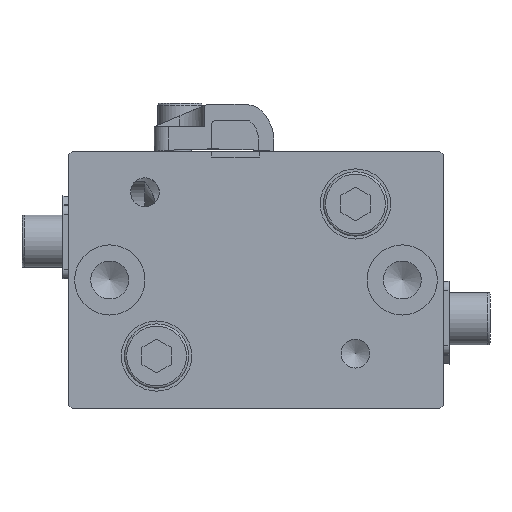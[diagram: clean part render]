
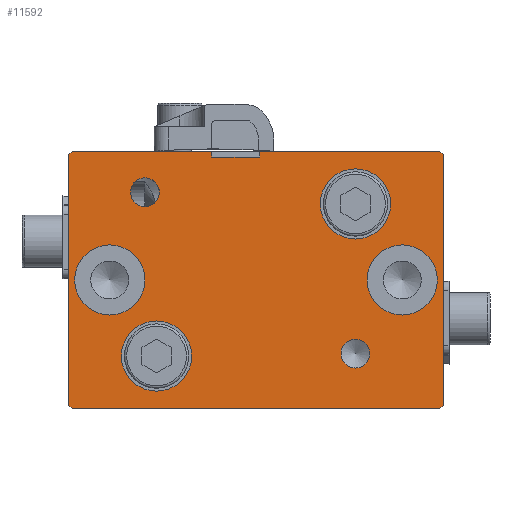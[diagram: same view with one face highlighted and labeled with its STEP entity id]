
A CAD part, front view. The second image highlights one B-rep face of the part: STEP entity #11592.
In plain terms, the highlighted planar face has unit normal (0, -1, 0) as drawn and (0, 1, 0) by its records, which use the part's own axes.
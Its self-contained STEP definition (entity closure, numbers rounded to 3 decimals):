
#297=CIRCLE('',#12155,1.229);
#298=CIRCLE('',#12156,1.229);
#299=CIRCLE('',#12157,3.);
#300=CIRCLE('',#12158,3.);
#301=CIRCLE('',#12159,3.);
#302=CIRCLE('',#12160,3.);
#610=ORIENTED_EDGE('',*,*,#3205,.T.);
#611=ORIENTED_EDGE('',*,*,#3206,.T.);
#612=ORIENTED_EDGE('',*,*,#3207,.T.);
#613=ORIENTED_EDGE('',*,*,#3208,.T.);
#614=ORIENTED_EDGE('',*,*,#3209,.T.);
#615=ORIENTED_EDGE('',*,*,#3210,.T.);
#616=ORIENTED_EDGE('',*,*,#3211,.T.);
#617=ORIENTED_EDGE('',*,*,#3212,.T.);
#618=ORIENTED_EDGE('',*,*,#3191,.T.);
#619=ORIENTED_EDGE('',*,*,#3213,.T.);
#620=ORIENTED_EDGE('',*,*,#3154,.T.);
#621=ORIENTED_EDGE('',*,*,#3214,.T.);
#622=ORIENTED_EDGE('',*,*,#3215,.T.);
#623=ORIENTED_EDGE('',*,*,#3216,.T.);
#624=ORIENTED_EDGE('',*,*,#3217,.T.);
#625=ORIENTED_EDGE('',*,*,#3218,.T.);
#626=ORIENTED_EDGE('',*,*,#3193,.T.);
#627=ORIENTED_EDGE('',*,*,#3219,.F.);
#3154=EDGE_CURVE('',#4455,#4454,#5362,.T.);
#3191=EDGE_CURVE('',#4487,#4489,#5386,.T.);
#3193=EDGE_CURVE('',#4492,#4490,#5388,.T.);
#3205=EDGE_CURVE('',#4503,#4503,#297,.T.);
#3206=EDGE_CURVE('',#4504,#4504,#298,.T.);
#3207=EDGE_CURVE('',#4505,#4505,#299,.T.);
#3208=EDGE_CURVE('',#4506,#4506,#300,.T.);
#3209=EDGE_CURVE('',#4507,#4507,#301,.T.);
#3210=EDGE_CURVE('',#4508,#4508,#302,.T.);
#3211=EDGE_CURVE('',#4509,#4510,#5399,.T.);
#3212=EDGE_CURVE('',#4510,#4487,#5400,.T.);
#3213=EDGE_CURVE('',#4489,#4455,#5401,.T.);
#3214=EDGE_CURVE('',#4454,#4511,#5402,.T.);
#3215=EDGE_CURVE('',#4511,#4512,#5403,.T.);
#3216=EDGE_CURVE('',#4512,#4513,#5404,.T.);
#3217=EDGE_CURVE('',#4513,#4514,#5405,.T.);
#3218=EDGE_CURVE('',#4514,#4492,#5406,.T.);
#3219=EDGE_CURVE('',#4509,#4490,#5407,.T.);
#4454=VERTEX_POINT('',#15575);
#4455=VERTEX_POINT('',#15577);
#4487=VERTEX_POINT('',#15682);
#4489=VERTEX_POINT('',#15686);
#4490=VERTEX_POINT('',#15690);
#4492=VERTEX_POINT('',#15693);
#4503=VERTEX_POINT('',#15719);
#4504=VERTEX_POINT('',#15721);
#4505=VERTEX_POINT('',#15723);
#4506=VERTEX_POINT('',#15725);
#4507=VERTEX_POINT('',#15727);
#4508=VERTEX_POINT('',#15729);
#4509=VERTEX_POINT('',#15731);
#4510=VERTEX_POINT('',#15732);
#4511=VERTEX_POINT('',#15736);
#4512=VERTEX_POINT('',#15738);
#4513=VERTEX_POINT('',#15740);
#4514=VERTEX_POINT('',#15742);
#5362=LINE('',#15576,#6383);
#5386=LINE('',#15687,#6407);
#5388=LINE('',#15692,#6409);
#5399=LINE('',#15730,#6420);
#5400=LINE('',#15733,#6421);
#5401=LINE('',#15734,#6422);
#5402=LINE('',#15735,#6423);
#5403=LINE('',#15737,#6424);
#5404=LINE('',#15739,#6425);
#5405=LINE('',#15741,#6426);
#5406=LINE('',#15743,#6427);
#5407=LINE('',#15744,#6428);
#6383=VECTOR('',#12952,1000.);
#6407=VECTOR('',#12998,1000.);
#6409=VECTOR('',#13002,1000.);
#6420=VECTOR('',#13033,1000.);
#6421=VECTOR('',#13034,1000.);
#6422=VECTOR('',#13035,1000.);
#6423=VECTOR('',#13036,1000.);
#6424=VECTOR('',#13037,1000.);
#6425=VECTOR('',#13038,1000.);
#6426=VECTOR('',#13039,1000.);
#6427=VECTOR('',#13040,1000.);
#6428=VECTOR('',#13041,1000.);
#7409=EDGE_LOOP('',(#610));
#7410=EDGE_LOOP('',(#611));
#7411=EDGE_LOOP('',(#612));
#7412=EDGE_LOOP('',(#613));
#7413=EDGE_LOOP('',(#614));
#7414=EDGE_LOOP('',(#615));
#7415=EDGE_LOOP('',(#616,#617,#618,#619,#620,#621,#622,#623,#624,#625,#626,
#627));
#8062=FACE_BOUND('',#7409,.T.);
#8063=FACE_BOUND('',#7410,.T.);
#8064=FACE_BOUND('',#7411,.T.);
#8065=FACE_BOUND('',#7412,.T.);
#8066=FACE_BOUND('',#7413,.T.);
#8067=FACE_BOUND('',#7414,.T.);
#8068=FACE_BOUND('',#7415,.T.);
#8715=PLANE('',#12154);
#11592=ADVANCED_FACE('',(#8062,#8063,#8064,#8065,#8066,#8067,#8068),#8715,
 .T.);
#12154=AXIS2_PLACEMENT_3D('',#15717,#13019,#13020);
#12155=AXIS2_PLACEMENT_3D('',#15718,#13021,#13022);
#12156=AXIS2_PLACEMENT_3D('',#15720,#13023,#13024);
#12157=AXIS2_PLACEMENT_3D('',#15722,#13025,#13026);
#12158=AXIS2_PLACEMENT_3D('',#15724,#13027,#13028);
#12159=AXIS2_PLACEMENT_3D('',#15726,#13029,#13030);
#12160=AXIS2_PLACEMENT_3D('',#15728,#13031,#13032);
#12952=DIRECTION('',(0.,0.,1.));
#12998=DIRECTION('',(-1.,0.,0.));
#13002=DIRECTION('',(-1.,0.,0.));
#13019=DIRECTION('',(0.,1.,0.));
#13020=DIRECTION('',(0.,0.,1.));
#13021=DIRECTION('',(0.,-1.,0.));
#13022=DIRECTION('',(0.,0.,-1.));
#13023=DIRECTION('',(0.,-1.,0.));
#13024=DIRECTION('',(0.,0.,-1.));
#13025=DIRECTION('',(0.,-1.,0.));
#13026=DIRECTION('',(0.,0.,-1.));
#13027=DIRECTION('',(0.,-1.,0.));
#13028=DIRECTION('',(0.,0.,-1.));
#13029=DIRECTION('',(0.,-1.,0.));
#13030=DIRECTION('',(0.,0.,-1.));
#13031=DIRECTION('',(0.,-1.,0.));
#13032=DIRECTION('',(0.,0.,-1.));
#13033=DIRECTION('',(-1.,0.,0.));
#13034=DIRECTION('',(0.,0.,-1.));
#13035=DIRECTION('',(-0.707,0.,0.707));
#13036=DIRECTION('',(0.707,0.,0.707));
#13037=DIRECTION('',(1.,0.,0.));
#13038=DIRECTION('',(0.707,0.,-0.707));
#13039=DIRECTION('',(0.,0.,-1.));
#13040=DIRECTION('',(-0.707,0.,-0.707));
#13041=DIRECTION('',(0.,0.,-1.));
#15575=CARTESIAN_POINT('',(-16.,29.5,10.7));
#15576=CARTESIAN_POINT('',(-16.,29.5,-10.7));
#15577=CARTESIAN_POINT('',(-16.,29.5,-10.7));
#15682=CARTESIAN_POINT('',(-3.8,29.5,-11.));
#15686=CARTESIAN_POINT('',(-15.7,29.5,-11.));
#15687=CARTESIAN_POINT('',(15.7,29.5,-11.));
#15690=CARTESIAN_POINT('',(0.3,29.5,-11.));
#15692=CARTESIAN_POINT('',(15.7,29.5,-11.));
#15693=CARTESIAN_POINT('',(15.7,29.5,-11.));
#15717=CARTESIAN_POINT('',(0.,29.5,0.));
#15718=CARTESIAN_POINT('',(8.5,29.5,6.3));
#15719=CARTESIAN_POINT('',(8.5,29.5,5.071));
#15720=CARTESIAN_POINT('',(-9.5,29.5,-7.5));
#15721=CARTESIAN_POINT('',(-9.5,29.5,-8.729));
#15722=CARTESIAN_POINT('',(-8.5,29.5,6.5));
#15723=CARTESIAN_POINT('',(-8.5,29.5,3.5));
#15724=CARTESIAN_POINT('',(8.5,29.5,-6.5));
#15725=CARTESIAN_POINT('',(8.5,29.5,-9.5));
#15726=CARTESIAN_POINT('',(-12.5,29.5,0.));
#15727=CARTESIAN_POINT('',(-12.5,29.5,-3.));
#15728=CARTESIAN_POINT('',(12.5,29.5,0.));
#15729=CARTESIAN_POINT('',(12.5,29.5,-3.));
#15730=CARTESIAN_POINT('',(0.3,29.5,-10.5));
#15731=CARTESIAN_POINT('',(0.3,29.5,-10.5));
#15732=CARTESIAN_POINT('',(-3.8,29.5,-10.5));
#15733=CARTESIAN_POINT('',(-3.8,29.5,-10.5));
#15734=CARTESIAN_POINT('',(-15.7,29.5,-11.));
#15735=CARTESIAN_POINT('',(-16.,29.5,10.7));
#15736=CARTESIAN_POINT('',(-15.7,29.5,11.));
#15737=CARTESIAN_POINT('',(-15.7,29.5,11.));
#15738=CARTESIAN_POINT('',(15.7,29.5,11.));
#15739=CARTESIAN_POINT('',(15.7,29.5,11.));
#15740=CARTESIAN_POINT('',(16.,29.5,10.7));
#15741=CARTESIAN_POINT('',(16.,29.5,10.7));
#15742=CARTESIAN_POINT('',(16.,29.5,-10.7));
#15743=CARTESIAN_POINT('',(16.,29.5,-10.7));
#15744=CARTESIAN_POINT('',(0.3,29.5,-10.5));
